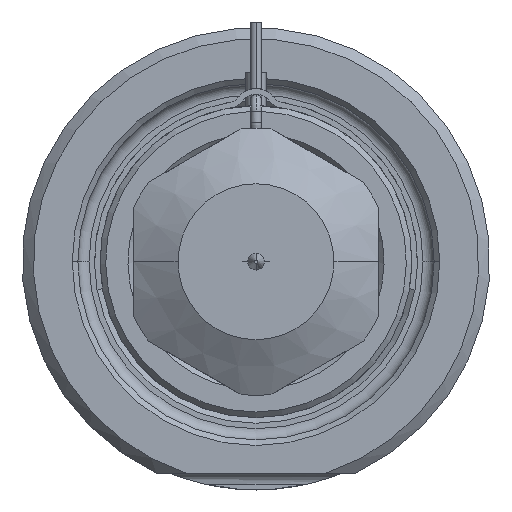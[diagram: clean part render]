
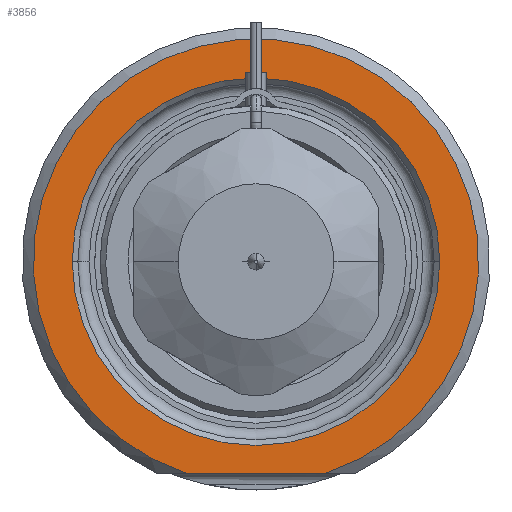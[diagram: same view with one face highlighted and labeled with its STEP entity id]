
A CAD part, front view. The second image highlights one B-rep face of the part: STEP entity #3856.
In plain terms, the highlighted planar face has unit normal (0, -1, 0).
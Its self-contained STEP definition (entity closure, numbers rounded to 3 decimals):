
#1=DIRECTION('',(1.,0.,0.));
#2=VECTOR('',#1,12.49);
#3=CARTESIAN_POINT('',(-6.245,0.,-19.));
#4=LINE('',#3,#2);
#5=CARTESIAN_POINT('',(0.,0.,0.));
#6=DIRECTION('',(0.,1.,0.));
#7=DIRECTION('',(-1.,0.,0.));
#8=AXIS2_PLACEMENT_3D('',#5,#6,#7);
#10=CARTESIAN_POINT('',(0.,0.,0.));
#11=DIRECTION('',(0.,1.,0.));
#12=DIRECTION('',(1.,0.,0.));
#13=AXIS2_PLACEMENT_3D('',#10,#11,#12);
#119=CARTESIAN_POINT('',(0.,0.,0.));
#120=DIRECTION('',(0.,-1.,0.));
#121=DIRECTION('',(0.312,0.,-0.95));
#122=AXIS2_PLACEMENT_3D('',#119,#120,#121);
#3233=CARTESIAN_POINT('',(-16.5,0.,0.));
#3234=CARTESIAN_POINT('',(16.5,0.,0.));
#3235=VERTEX_POINT('',#3233);
#3236=VERTEX_POINT('',#3234);
#3287=CARTESIAN_POINT('',(-6.245,0.,-19.));
#3288=CARTESIAN_POINT('',(6.245,0.,-19.));
#3289=VERTEX_POINT('',#3287);
#3290=VERTEX_POINT('',#3288);
#3839=CARTESIAN_POINT('',(0.,0.,0.));
#3840=DIRECTION('',(0.,-1.,0.));
#3841=DIRECTION('',(1.,0.,0.));
#3842=AXIS2_PLACEMENT_3D('',#3839,#3840,#3841);
#3843=PLANE('',#3842);
#3845=ORIENTED_EDGE('',*,*,#3844,.F.);
#3847=ORIENTED_EDGE('',*,*,#3846,.F.);
#3848=EDGE_LOOP('',(#3845,#3847));
#3849=FACE_OUTER_BOUND('',#3848,.F.);
#3851=ORIENTED_EDGE('',*,*,#3850,.F.);
#3853=ORIENTED_EDGE('',*,*,#3852,.F.);
#3854=EDGE_LOOP('',(#3851,#3853));
#3855=FACE_BOUND('',#3854,.F.);
#3856=ADVANCED_FACE('',(#3849,#3855),#3843,.T.);
#9=CIRCLE('',#8,16.5);
#14=CIRCLE('',#13,16.5);
#123=CIRCLE('',#122,20.);
#3844=EDGE_CURVE('',#3289,#3290,#4,.T.);
#3846=EDGE_CURVE('',#3290,#3289,#123,.T.);
#3850=EDGE_CURVE('',#3235,#3236,#9,.T.);
#3852=EDGE_CURVE('',#3236,#3235,#14,.T.);
